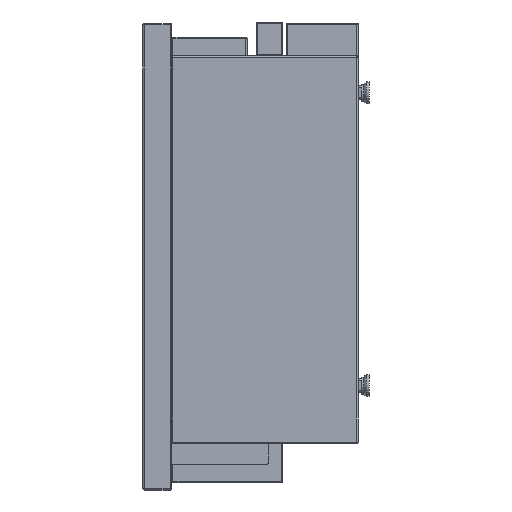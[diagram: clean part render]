
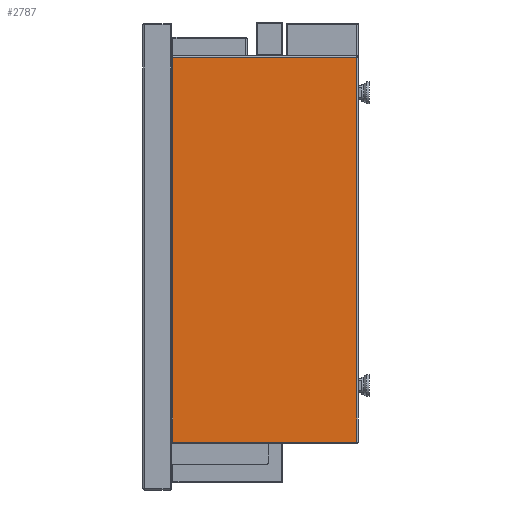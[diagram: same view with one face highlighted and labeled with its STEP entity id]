
A CAD part, left-side view. The second image highlights one B-rep face of the part: STEP entity #2787.
In plain terms, the highlighted planar face has unit normal (-1, 0, 0).
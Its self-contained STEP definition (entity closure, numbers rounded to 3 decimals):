
#588=DIRECTION('',(0.,0.,-1.));
#589=VECTOR('',#588,536.4);
#590=CARTESIAN_POINT('',(-299.,128.2,268.2));
#591=LINE('',#590,#589);
#592=DIRECTION('',(0.,1.,0.));
#593=VECTOR('',#592,256.4);
#594=CARTESIAN_POINT('',(-299.,-128.2,268.2));
#595=LINE('',#594,#593);
#596=DIRECTION('',(0.,0.,1.));
#597=VECTOR('',#596,536.4);
#598=CARTESIAN_POINT('',(-299.,-128.2,-268.2));
#599=LINE('',#598,#597);
#600=DIRECTION('',(0.,-1.,0.));
#601=VECTOR('',#600,256.4);
#602=CARTESIAN_POINT('',(-299.,128.2,-268.2));
#603=LINE('',#602,#601);
#1642=CARTESIAN_POINT('',(-299.,128.2,268.2));
#1643=CARTESIAN_POINT('',(-299.,128.2,-268.2));
#1644=VERTEX_POINT('',#1642);
#1645=VERTEX_POINT('',#1643);
#1646=CARTESIAN_POINT('',(-299.,-128.2,268.2));
#1647=VERTEX_POINT('',#1646);
#1666=CARTESIAN_POINT('',(-299.,-128.2,-268.2));
#1667=VERTEX_POINT('',#1666);
#2773=CARTESIAN_POINT('',(-299.,0.,0.));
#2774=DIRECTION('',(1.,0.,0.));
#2775=DIRECTION('',(0.,0.,-1.));
#2776=AXIS2_PLACEMENT_3D('',#2773,#2774,#2775);
#2777=PLANE('',#2776);
#2779=ORIENTED_EDGE('',*,*,#2778,.F.);
#2781=ORIENTED_EDGE('',*,*,#2780,.F.);
#2783=ORIENTED_EDGE('',*,*,#2782,.F.);
#2784=ORIENTED_EDGE('',*,*,#2766,.F.);
#2785=EDGE_LOOP('',(#2779,#2781,#2783,#2784));
#2786=FACE_OUTER_BOUND('',#2785,.F.);
#2766=EDGE_CURVE('',#1645,#1667,#603,.T.);
#2778=EDGE_CURVE('',#1644,#1645,#591,.T.);
#2780=EDGE_CURVE('',#1647,#1644,#595,.T.);
#2782=EDGE_CURVE('',#1667,#1647,#599,.T.);
#2787=ADVANCED_FACE('',(#2786),#2777,.F.);
